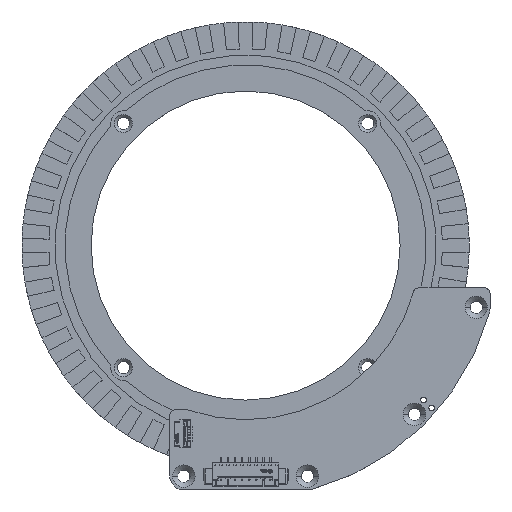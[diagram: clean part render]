
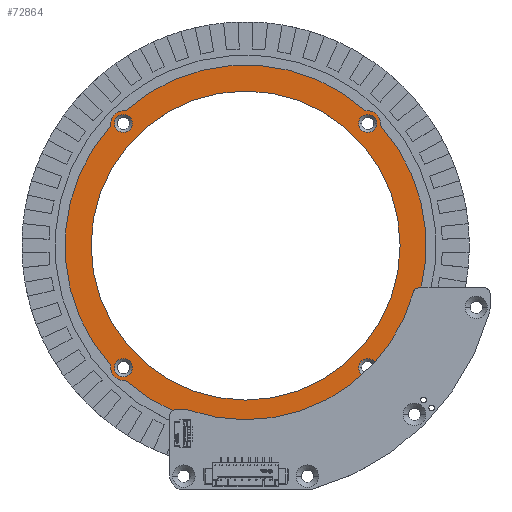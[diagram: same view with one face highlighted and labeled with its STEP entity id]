
A CAD part, top view. The second image highlights one B-rep face of the part: STEP entity #72864.
In plain terms, the highlighted planar face has unit normal (0, 0, 1) as drawn and (0, 1, 0) by its records, which use the part's own axes.
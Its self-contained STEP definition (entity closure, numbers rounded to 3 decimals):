
#67472=CARTESIAN_POINT('',(21.744,1.2,-21.744));
#67473=DIRECTION('',(0.,1.,0.));
#67474=DIRECTION('',(1.,0.,0.));
#67475=AXIS2_PLACEMENT_3D('',#67472,#67473,#67474);
#67480=CARTESIAN_POINT('',(21.744,1.2,-21.744));
#67481=DIRECTION('',(0.,-1.,0.));
#67482=DIRECTION('',(1.,0.,0.));
#67483=AXIS2_PLACEMENT_3D('',#67480,#67481,#67482);
#67488=CARTESIAN_POINT('',(21.744,1.2,21.744));
#67489=DIRECTION('',(0.,1.,0.));
#67490=DIRECTION('',(-1.,0.,0.));
#67491=AXIS2_PLACEMENT_3D('',#67488,#67489,#67490);
#67496=CARTESIAN_POINT('',(21.744,1.2,21.744));
#67497=DIRECTION('',(0.,-1.,0.));
#67498=DIRECTION('',(-1.,0.,0.));
#67499=AXIS2_PLACEMENT_3D('',#67496,#67497,#67498);
#67504=CARTESIAN_POINT('',(-21.744,1.2,21.744));
#67505=DIRECTION('',(0.,1.,0.));
#67506=DIRECTION('',(-1.,0.,0.));
#67507=AXIS2_PLACEMENT_3D('',#67504,#67505,#67506);
#67512=CARTESIAN_POINT('',(-21.744,1.2,21.744));
#67513=DIRECTION('',(0.,-1.,0.));
#67514=DIRECTION('',(-1.,0.,0.));
#67515=AXIS2_PLACEMENT_3D('',#67512,#67513,#67514);
#67520=CARTESIAN_POINT('',(0.,1.2,0.));
#67521=DIRECTION('',(0.,-1.,0.));
#67522=DIRECTION('',(1.,0.,0.));
#67523=AXIS2_PLACEMENT_3D('',#67520,#67521,#67522);
#67528=CARTESIAN_POINT('',(0.,1.2,0.));
#67529=DIRECTION('',(0.,-1.,0.));
#67530=DIRECTION('',(-1.,0.,0.));
#67531=AXIS2_PLACEMENT_3D('',#67528,#67529,#67530);
#68216=CARTESIAN_POINT('',(-21.744,1.2,-21.744));
#68217=DIRECTION('',(0.,1.,0.));
#68218=DIRECTION('',(1.,0.,0.));
#68219=AXIS2_PLACEMENT_3D('',#68216,#68217,#68218);
#68224=CARTESIAN_POINT('',(-21.744,1.2,-21.744));
#68225=DIRECTION('',(0.,-1.,0.));
#68226=DIRECTION('',(1.,0.,0.));
#68227=AXIS2_PLACEMENT_3D('',#68224,#68225,#68226);
#68232=CARTESIAN_POINT('',(0.,1.2,0.));
#68233=DIRECTION('',(0.,1.,0.));
#68234=DIRECTION('',(0.666,0.,-0.746));
#68235=AXIS2_PLACEMENT_3D('',#68232,#68233,#68234);
#68276=CARTESIAN_POINT('',(0.,1.2,0.));
#68277=DIRECTION('',(0.,1.,0.));
#68278=DIRECTION('',(0.746,0.,0.666));
#68279=AXIS2_PLACEMENT_3D('',#68276,#68277,#68278);
#68291=CARTESIAN_POINT('',(0.,1.2,0.));
#68292=DIRECTION('',(0.,1.,0.));
#68293=DIRECTION('',(-0.746,0.,-0.666));
#68294=AXIS2_PLACEMENT_3D('',#68291,#68292,#68293);
#68313=CARTESIAN_POINT('',(0.,1.2,0.));
#68314=DIRECTION('',(0.,1.,0.));
#68315=DIRECTION('',(-0.666,0.,0.746));
#68316=AXIS2_PLACEMENT_3D('',#68313,#68314,#68315);
#68336=CARTESIAN_POINT('',(-21.744,1.2,-21.744));
#68337=DIRECTION('',(0.,1.,0.));
#68338=DIRECTION('',(0.141,0.,-0.99));
#68339=AXIS2_PLACEMENT_3D('',#68336,#68337,#68338);
#68406=CARTESIAN_POINT('',(21.744,1.2,-21.744));
#68407=DIRECTION('',(0.,1.,0.));
#68408=DIRECTION('',(0.99,0.,0.141));
#68409=AXIS2_PLACEMENT_3D('',#68406,#68407,#68408);
#68430=CARTESIAN_POINT('',(-21.744,1.2,21.744));
#68431=DIRECTION('',(0.,1.,0.));
#68432=DIRECTION('',(-0.99,0.,-0.141));
#68433=AXIS2_PLACEMENT_3D('',#68430,#68431,#68432);
#68438=CARTESIAN_POINT('',(21.744,1.2,21.744));
#68439=DIRECTION('',(0.,1.,0.));
#68440=DIRECTION('',(-0.141,0.,0.99));
#68441=AXIS2_PLACEMENT_3D('',#68438,#68439,#68440);
#71698=CARTESIAN_POINT('',(27.505,1.2,0.));
#71699=CARTESIAN_POINT('',(-27.505,1.2,0.));
#71700=VERTEX_POINT('',#71698);
#71701=VERTEX_POINT('',#71699);
#72232=CARTESIAN_POINT('',(-20.144,1.2,-21.744));
#72233=CARTESIAN_POINT('',(-23.344,1.2,-21.744));
#72234=VERTEX_POINT('',#72232);
#72235=VERTEX_POINT('',#72233);
#72244=CARTESIAN_POINT('',(23.344,1.2,-21.744));
#72245=CARTESIAN_POINT('',(20.144,1.2,-21.744));
#72246=VERTEX_POINT('',#72244);
#72247=VERTEX_POINT('',#72245);
#72252=CARTESIAN_POINT('',(20.144,1.2,21.744));
#72253=CARTESIAN_POINT('',(23.344,1.2,21.744));
#72254=VERTEX_POINT('',#72252);
#72255=VERTEX_POINT('',#72253);
#72256=CARTESIAN_POINT('',(-23.344,1.2,21.744));
#72257=CARTESIAN_POINT('',(-20.144,1.2,21.744));
#72258=VERTEX_POINT('',#72256);
#72259=VERTEX_POINT('',#72257);
#72530=CARTESIAN_POINT('',(23.971,1.2,-21.426));
#72532=VERTEX_POINT('',#72530);
#72534=CARTESIAN_POINT('',(21.426,1.2,-23.971));
#72536=VERTEX_POINT('',#72534);
#72538=CARTESIAN_POINT('',(-23.971,1.2,-21.426));
#72540=VERTEX_POINT('',#72538);
#72542=CARTESIAN_POINT('',(-21.426,1.2,-23.971));
#72544=VERTEX_POINT('',#72542);
#72546=CARTESIAN_POINT('',(-21.426,1.2,23.971));
#72548=VERTEX_POINT('',#72546);
#72550=CARTESIAN_POINT('',(-23.971,1.2,21.426));
#72552=VERTEX_POINT('',#72550);
#72554=CARTESIAN_POINT('',(21.426,1.2,23.971));
#72556=VERTEX_POINT('',#72554);
#72558=CARTESIAN_POINT('',(23.971,1.2,21.426));
#72560=VERTEX_POINT('',#72558);
#72811=CARTESIAN_POINT('',(0.,1.2,0.));
#72812=DIRECTION('',(0.,1.,0.));
#72813=DIRECTION('',(0.016,0.,-1.));
#72814=AXIS2_PLACEMENT_3D('',#72811,#72812,#72813);
#72815=PLANE('',#72814);
#72817=ORIENTED_EDGE('',*,*,#72816,.F.);
#72819=ORIENTED_EDGE('',*,*,#72818,.F.);
#72821=ORIENTED_EDGE('',*,*,#72820,.F.);
#72823=ORIENTED_EDGE('',*,*,#72822,.F.);
#72825=ORIENTED_EDGE('',*,*,#72824,.F.);
#72827=ORIENTED_EDGE('',*,*,#72826,.F.);
#72829=ORIENTED_EDGE('',*,*,#72828,.F.);
#72831=ORIENTED_EDGE('',*,*,#72830,.F.);
#72832=EDGE_LOOP('',(#72817,#72819,#72821,#72823,#72825,#72827,#72829,#72831));
#72833=FACE_OUTER_BOUND('',#72832,.F.);
#72835=ORIENTED_EDGE('',*,*,#72834,.T.);
#72837=ORIENTED_EDGE('',*,*,#72836,.F.);
#72838=EDGE_LOOP('',(#72835,#72837));
#72839=FACE_BOUND('',#72838,.F.);
#72841=ORIENTED_EDGE('',*,*,#72840,.T.);
#72843=ORIENTED_EDGE('',*,*,#72842,.F.);
#72844=EDGE_LOOP('',(#72841,#72843));
#72845=FACE_BOUND('',#72844,.F.);
#72847=ORIENTED_EDGE('',*,*,#72846,.T.);
#72849=ORIENTED_EDGE('',*,*,#72848,.F.);
#72850=EDGE_LOOP('',(#72847,#72849));
#72851=FACE_BOUND('',#72850,.F.);
#72853=ORIENTED_EDGE('',*,*,#72852,.F.);
#72855=ORIENTED_EDGE('',*,*,#72854,.F.);
#72856=EDGE_LOOP('',(#72853,#72855));
#72857=FACE_BOUND('',#72856,.F.);
#72859=ORIENTED_EDGE('',*,*,#72858,.T.);
#72861=ORIENTED_EDGE('',*,*,#72860,.F.);
#72862=EDGE_LOOP('',(#72859,#72861));
#72863=FACE_BOUND('',#72862,.F.);
#72864=ADVANCED_FACE('',(#72833,#72839,#72845,#72851,#72857,#72863),#72815,.T.);
#67476=CIRCLE('',#67475,1.6);
#67484=CIRCLE('',#67483,1.6);
#67492=CIRCLE('',#67491,1.6);
#67500=CIRCLE('',#67499,1.6);
#67508=CIRCLE('',#67507,1.6);
#67516=CIRCLE('',#67515,1.6);
#67524=CIRCLE('',#67523,27.505);
#67532=CIRCLE('',#67531,27.505);
#68220=CIRCLE('',#68219,1.6);
#68228=CIRCLE('',#68227,1.6);
#68236=CIRCLE('',#68235,32.151);
#68280=CIRCLE('',#68279,32.151);
#68295=CIRCLE('',#68294,32.151);
#68317=CIRCLE('',#68316,32.151);
#68340=CIRCLE('',#68339,2.25);
#68410=CIRCLE('',#68409,2.25);
#68434=CIRCLE('',#68433,2.25);
#68442=CIRCLE('',#68441,2.25);
#72816=EDGE_CURVE('',#72536,#72544,#68236,.T.);
#72818=EDGE_CURVE('',#72532,#72536,#68410,.T.);
#72820=EDGE_CURVE('',#72560,#72532,#68280,.T.);
#72822=EDGE_CURVE('',#72556,#72560,#68442,.T.);
#72824=EDGE_CURVE('',#72548,#72556,#68317,.T.);
#72826=EDGE_CURVE('',#72552,#72548,#68434,.T.);
#72828=EDGE_CURVE('',#72540,#72552,#68295,.T.);
#72830=EDGE_CURVE('',#72544,#72540,#68340,.T.);
#72834=EDGE_CURVE('',#72246,#72247,#67476,.T.);
#72836=EDGE_CURVE('',#72246,#72247,#67484,.T.);
#72840=EDGE_CURVE('',#72254,#72255,#67492,.T.);
#72842=EDGE_CURVE('',#72254,#72255,#67500,.T.);
#72846=EDGE_CURVE('',#72258,#72259,#67508,.T.);
#72848=EDGE_CURVE('',#72258,#72259,#67516,.T.);
#72852=EDGE_CURVE('',#71700,#71701,#67524,.T.);
#72854=EDGE_CURVE('',#71701,#71700,#67532,.T.);
#72858=EDGE_CURVE('',#72234,#72235,#68220,.T.);
#72860=EDGE_CURVE('',#72234,#72235,#68228,.T.);
